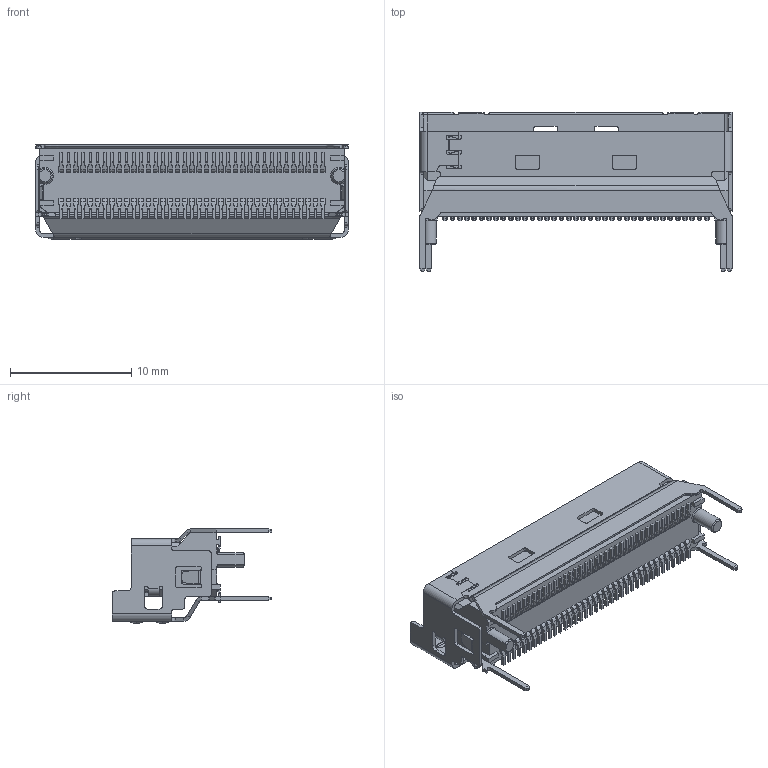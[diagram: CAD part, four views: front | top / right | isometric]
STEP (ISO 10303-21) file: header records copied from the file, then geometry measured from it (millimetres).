
FILE_DESCRIPTION((''),'2;1');
FILE_NAME('PRT0012','2024-05-18T14:37:00',('ZL'),(''),'CREO PARAMETRIC BY PTC INC, 2020053','CREO PARAMETRIC BY PTC INC, 2020053','');
FILE_SCHEMA(('AUTOMOTIVE_DESIGN { 1 0 10303 214 1 1 1 1 }'));
Products named in the file (1): PRT0012
Bounding box: 25.8 x 13.15 x 7.77 mm (x, y, z)
Volume: 787.1 mm3; surface area: 2090.5 mm2
Topology: 1 solids, 1 shells, 4712 faces, 12331 edges, 7692 vertices
Faces by surface type: plane 2706, cylinder 1666, bspline 169, torus 160, cone 11
Entity records: 182677 total; most frequent: CARTESIAN_POINT 33107, ORIENTED_EDGE 24662, DIRECTION 24089, EDGE_CURVE 12331, VECTOR 8284, LINE 8284, AXIS2_PLACEMENT_3D 7901, VERTEX_POINT 7692
